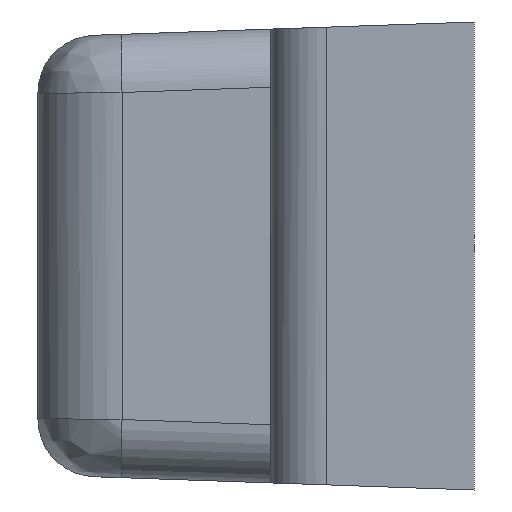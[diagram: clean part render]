
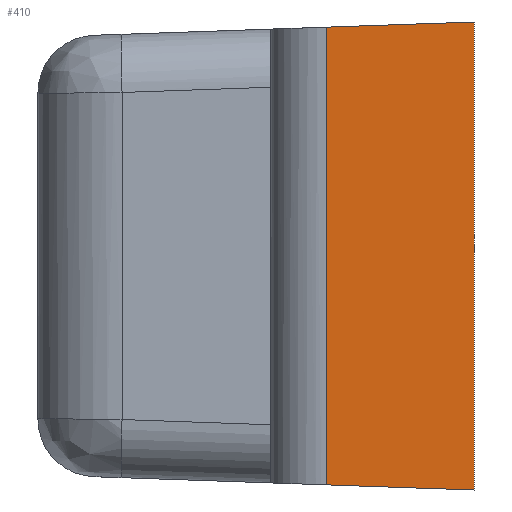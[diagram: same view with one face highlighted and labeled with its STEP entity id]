
A CAD part, left-side view. The second image highlights one B-rep face of the part: STEP entity #410.
In plain terms, the highlighted planar face has unit normal (-0.999, 0.035, 0).
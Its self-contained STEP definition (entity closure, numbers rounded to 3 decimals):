
#34=PLANE('',#468);
#58=FACE_OUTER_BOUND('',#82,.T.);
#82=EDGE_LOOP('',(#359,#360,#361,#362));
#95=LINE('',#629,#129);
#98=LINE('',#636,#132);
#116=LINE('',#805,#150);
#117=LINE('',#806,#151);
#129=VECTOR('',#499,10.);
#132=VECTOR('',#506,10.);
#150=VECTOR('',#588,10.);
#151=VECTOR('',#589,10.);
#182=VERTEX_POINT('',#626);
#183=VERTEX_POINT('',#628);
#185=VERTEX_POINT('',#634);
#204=VERTEX_POINT('',#804);
#220=EDGE_CURVE('',#182,#183,#95,.T.);
#224=EDGE_CURVE('',#185,#182,#98,.T.);
#260=EDGE_CURVE('',#185,#204,#116,.T.);
#261=EDGE_CURVE('',#204,#183,#117,.T.);
#359=ORIENTED_EDGE('',*,*,#224,.F.);
#360=ORIENTED_EDGE('',*,*,#260,.T.);
#361=ORIENTED_EDGE('',*,*,#261,.T.);
#362=ORIENTED_EDGE('',*,*,#220,.F.);
#410=ADVANCED_FACE('',(#58),#34,.T.);
#468=AXIS2_PLACEMENT_3D('',#803,#586,#587);
#499=DIRECTION('',(-0.035,-0.999,0.035));
#506=DIRECTION('',(0.,0.,1.));
#586=DIRECTION('center_axis',(-0.999,0.035,0.));
#587=DIRECTION('ref_axis',(0.,0.,-1.));
#588=DIRECTION('',(-0.035,-0.999,-0.035));
#589=DIRECTION('',(0.,0.,1.));
#626=CARTESIAN_POINT('',(-1.217,-0.483,0.017));
#628=CARTESIAN_POINT('',(-1.261,-1.75,0.061));
#629=CARTESIAN_POINT('',(-1.198,0.068,-0.002));
#634=CARTESIAN_POINT('',(-1.217,-0.483,-3.917));
#636=CARTESIAN_POINT('',(-1.217,-0.483,-2.925));
#803=CARTESIAN_POINT('Origin',(-1.2,0.,-3.9));
#804=CARTESIAN_POINT('',(-1.261,-1.75,-3.961));
#805=CARTESIAN_POINT('',(-1.189,0.328,-3.889));
#806=CARTESIAN_POINT('',(-1.261,-1.75,-3.9));
